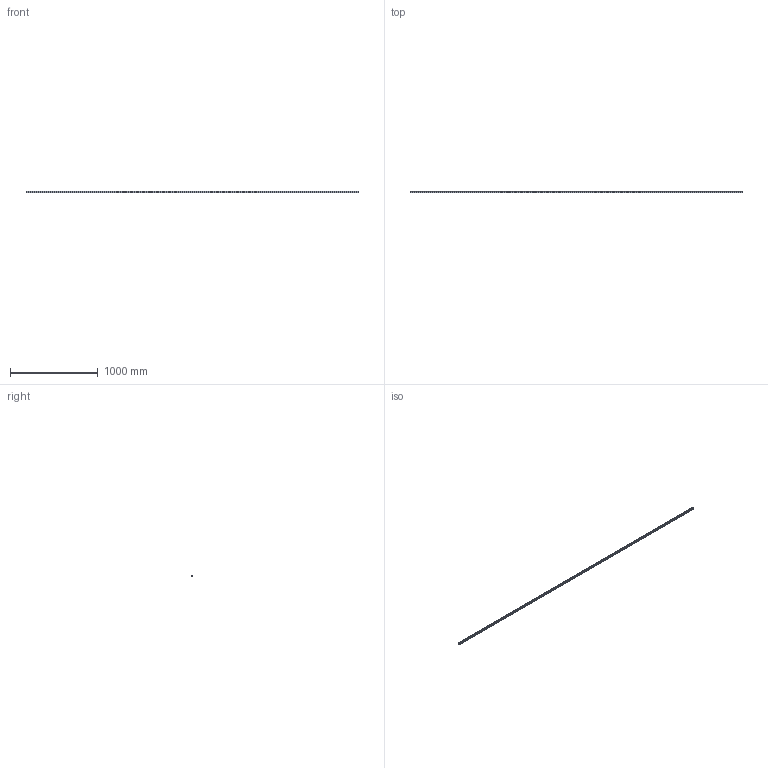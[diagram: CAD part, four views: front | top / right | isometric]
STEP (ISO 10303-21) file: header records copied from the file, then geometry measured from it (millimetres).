
FILE_DESCRIPTION (( 'STEP AP203' ), '1' );
FILE_NAME ('L1018.20R-3780.step', '2023-08-06T09:19:25', ( '' ), ( '' ), 'SwSTEP 2.0', 'SolidWorks 2019', '' );
FILE_SCHEMA (( 'CONFIG_CONTROL_DESIGN' ));
Length unit declared in the file: millimetre
Products named in the file (1): L1018.20R-3780
Bounding box: 3780 x 19.3 x 20 mm (x, y, z)
Volume: 1198744.9 mm3; surface area: 319653.1 mm2
Topology: 1 solids, 1 shells, 596 faces, 1341 edges, 747 vertices
Faces by surface type: cylinder 255, cone 252, plane 89
Entity records: 15740 total; most frequent: DIRECTION 3045, CARTESIAN_POINT 2559, ORIENTED_EDGE 2430, AXIS2_PLACEMENT_3D 1233, EDGE_CURVE 1215, VERTEX_POINT 747, EDGE_LOOP 722, CIRCLE 636
